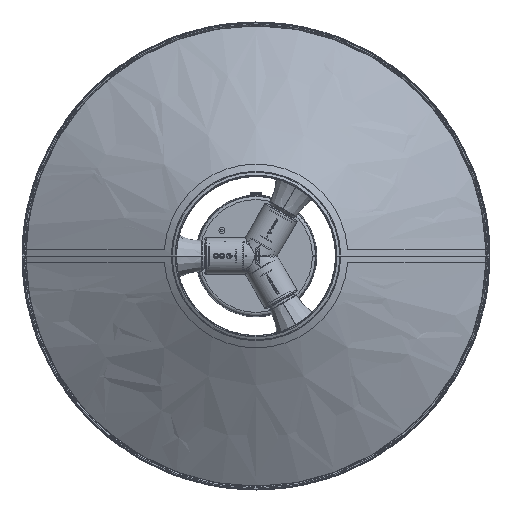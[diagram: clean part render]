
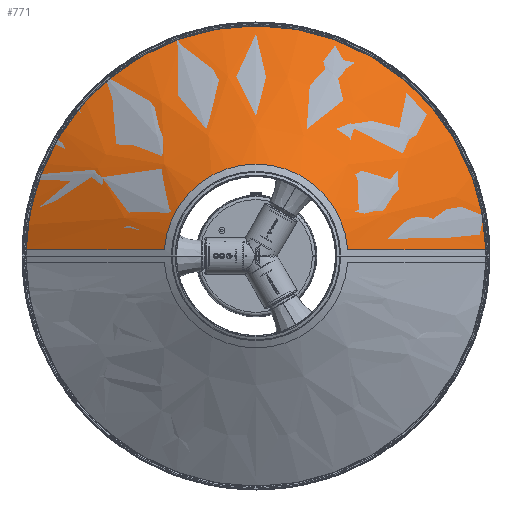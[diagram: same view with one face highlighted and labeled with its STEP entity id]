
A CAD part, front view. The second image highlights one B-rep face of the part: STEP entity #771.
In plain terms, the highlighted free-form (B-spline) face has degree [2, 1] with [9, 2] control points.
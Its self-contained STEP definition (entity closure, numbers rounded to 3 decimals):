
#771=ADVANCED_FACE('',(#4843),#61183,.T.);
#4843=FACE_OUTER_BOUND('',#8627,.T.);
#8627=EDGE_LOOP('',(#12863,#12864,#12865,#12866));
#12863=ORIENTED_EDGE('',*,*,#33031,.F.);
#12864=ORIENTED_EDGE('',*,*,#33067,.T.);
#12865=ORIENTED_EDGE('',*,*,#33040,.T.);
#12866=ORIENTED_EDGE('',*,*,#33034,.T.);
#33031=EDGE_CURVE('',#54582,#54581,#43179,.T.);
#33034=EDGE_CURVE('',#54580,#54581,#45596,.T.);
#33040=EDGE_CURVE('',#54575,#54580,#45600,.T.);
#33067=EDGE_CURVE('',#54582,#54575,#45620,.T.);
#43179=TRIMMED_CURVE($,#44412,(#80762),(#80763),.T.,.CARTESIAN.);
#44412=CIRCLE('',#67903,108.);
#45596=B_SPLINE_CURVE_WITH_KNOTS('',3,(#80772,#80773,#80774,#80775,#80776,
#80777),.UNSPECIFIED.,.F.,.F.,(4,1,1,4),(0.,64.006,128.011,
192.017),.UNSPECIFIED.);
#45600=B_SPLINE_CURVE_WITH_KNOTS('',3,(#80794,#80795,#80796,#80797,#80798,
#80799,#80800,#80801,#80802,#80803,#80804,#80805,#80806,#80807,#80808,#80809,
#80810,#80811,#80812,#80813,#80814,#80815,#80816,#80817,#80818,#80819),
 .UNSPECIFIED.,.F.,.F.,(4,1,1,1,1,1,1,1,1,1,1,1,1,1,1,1,1,1,1,1,1,1,1,4),
(0.,36.923,73.845,110.768,147.691,
184.614,221.536,258.459,295.382,332.304,
369.227,406.15,443.073,479.995,516.918,
553.841,590.763,627.686,664.609,701.532,
738.454,775.377,812.3,849.222),
 .UNSPECIFIED.);
#45620=B_SPLINE_CURVE_WITH_KNOTS('',3,(#80927,#80928,#80929,#80930,#80931,
#80932),.UNSPECIFIED.,.F.,.F.,(4,1,1,4),(0.,64.006,128.011,
192.017),.UNSPECIFIED.);
#54575=VERTEX_POINT('',#80727);
#54580=VERTEX_POINT('',#80732);
#54581=VERTEX_POINT('',#80733);
#54582=VERTEX_POINT('',#80734);
#61183=(
BOUNDED_SURFACE()
B_SPLINE_SURFACE(2,1,((#80629,#80630),(#80631,#80632),(#80633,#80634),(#80635,
#80636),(#80637,#80638),(#80639,#80640),(#80641,#80642),(#80643,#80644),
(#80645,#80646)),.UNSPECIFIED.,.T.,.F.,.F.)
B_SPLINE_SURFACE_WITH_KNOTS((3,2,2,2,3),(2,2),(0.,477.75,955.5,
1433.25,1911.),(0.,350.61),.UNSPECIFIED.)
GEOMETRIC_REPRESENTATION_ITEM()
RATIONAL_B_SPLINE_SURFACE(((1.,1.),(0.707,0.707),
(1.,1.),(0.707,0.707),(1.,1.),(0.707,
0.707),(1.,1.),(0.707,0.707),(1.,1.)))
REPRESENTATION_ITEM('')
SURFACE()
);
#67903=AXIS2_PLACEMENT_3D($,#80761,#72736,#72737);
#72736=DIRECTION('',(0.,1.,0.));
#72737=DIRECTION('',(-0.998,0.,0.069));
#80629=CARTESIAN_POINT('',(0.,158.782,0.));
#80630=CARTESIAN_POINT('',(-304.145,-15.64,0.));
#80631=CARTESIAN_POINT('',(0.,158.782,0.));
#80632=CARTESIAN_POINT('',(-304.145,-15.64,-304.145));
#80633=CARTESIAN_POINT('',(0.,158.782,0.));
#80634=CARTESIAN_POINT('',(0.,-15.64,-304.145));
#80635=CARTESIAN_POINT('',(0.,158.782,0.));
#80636=CARTESIAN_POINT('',(304.145,-15.64,-304.145));
#80637=CARTESIAN_POINT('',(0.,158.782,0.));
#80638=CARTESIAN_POINT('',(304.145,-15.64,0.));
#80639=CARTESIAN_POINT('',(0.,158.782,0.));
#80640=CARTESIAN_POINT('',(304.145,-15.64,304.145));
#80641=CARTESIAN_POINT('',(0.,158.782,0.));
#80642=CARTESIAN_POINT('',(0.,-15.64,304.145));
#80643=CARTESIAN_POINT('',(0.,158.782,0.));
#80644=CARTESIAN_POINT('',(-304.145,-15.64,304.145));
#80645=CARTESIAN_POINT('',(0.,158.782,0.));
#80646=CARTESIAN_POINT('',(-304.145,-15.64,0.));
#80727=CARTESIAN_POINT('',(-274.398,1.476,7.5));
#80732=CARTESIAN_POINT('',(274.398,1.476,7.5));
#80733=CARTESIAN_POINT('',(107.739,96.846,7.5));
#80734=CARTESIAN_POINT('',(-107.739,96.846,7.5));
#80761=CARTESIAN_POINT('',(0.,96.846,0.));
#80762=CARTESIAN_POINT('',(-107.739,96.846,7.5));
#80763=CARTESIAN_POINT('',(107.739,96.846,7.5));
#80772=CARTESIAN_POINT('',(274.398,1.476,7.5));
#80773=CARTESIAN_POINT('',(253.07,13.703,7.5));
#80774=CARTESIAN_POINT('',(212.226,36.946,7.5));
#80775=CARTESIAN_POINT('',(157.155,68.573,7.5));
#80776=CARTESIAN_POINT('',(123.629,87.755,7.5));
#80777=CARTESIAN_POINT('',(107.739,96.846,7.5));
#80794=CARTESIAN_POINT('',(-274.398,1.476,7.5));
#80795=CARTESIAN_POINT('',(-274.064,1.476,19.699));
#80796=CARTESIAN_POINT('',(-271.766,1.308,44.091));
#80797=CARTESIAN_POINT('',(-263.447,1.375,80.004));
#80798=CARTESIAN_POINT('',(-250.341,1.357,114.608));
#80799=CARTESIAN_POINT('',(-232.738,1.362,147.095));
#80800=CARTESIAN_POINT('',(-210.972,1.361,176.906));
#80801=CARTESIAN_POINT('',(-185.36,1.361,203.585));
#80802=CARTESIAN_POINT('',(-156.437,1.361,226.564));
#80803=CARTESIAN_POINT('',(-124.718,1.361,245.459));
#80804=CARTESIAN_POINT('',(-90.695,1.361,259.961));
#80805=CARTESIAN_POINT('',(-55.086,1.361,269.758));
#80806=CARTESIAN_POINT('',(-18.493,1.361,274.705));
#80807=CARTESIAN_POINT('',(18.493,1.361,274.705));
#80808=CARTESIAN_POINT('',(55.086,1.361,269.758));
#80809=CARTESIAN_POINT('',(90.695,1.361,259.961));
#80810=CARTESIAN_POINT('',(124.718,1.361,245.459));
#80811=CARTESIAN_POINT('',(156.437,1.361,226.564));
#80812=CARTESIAN_POINT('',(185.36,1.361,203.585));
#80813=CARTESIAN_POINT('',(210.972,1.361,176.906));
#80814=CARTESIAN_POINT('',(232.738,1.362,147.095));
#80815=CARTESIAN_POINT('',(250.341,1.357,114.608));
#80816=CARTESIAN_POINT('',(263.447,1.375,80.004));
#80817=CARTESIAN_POINT('',(271.766,1.308,44.091));
#80818=CARTESIAN_POINT('',(274.064,1.476,19.699));
#80819=CARTESIAN_POINT('',(274.398,1.476,7.5));
#80927=CARTESIAN_POINT('',(-107.739,96.846,7.5));
#80928=CARTESIAN_POINT('',(-123.419,87.876,7.5));
#80929=CARTESIAN_POINT('',(-156.665,68.853,7.5));
#80930=CARTESIAN_POINT('',(-211.787,37.198,7.5));
#80931=CARTESIAN_POINT('',(-252.882,13.81,7.5));
#80932=CARTESIAN_POINT('',(-274.398,1.476,7.5));
